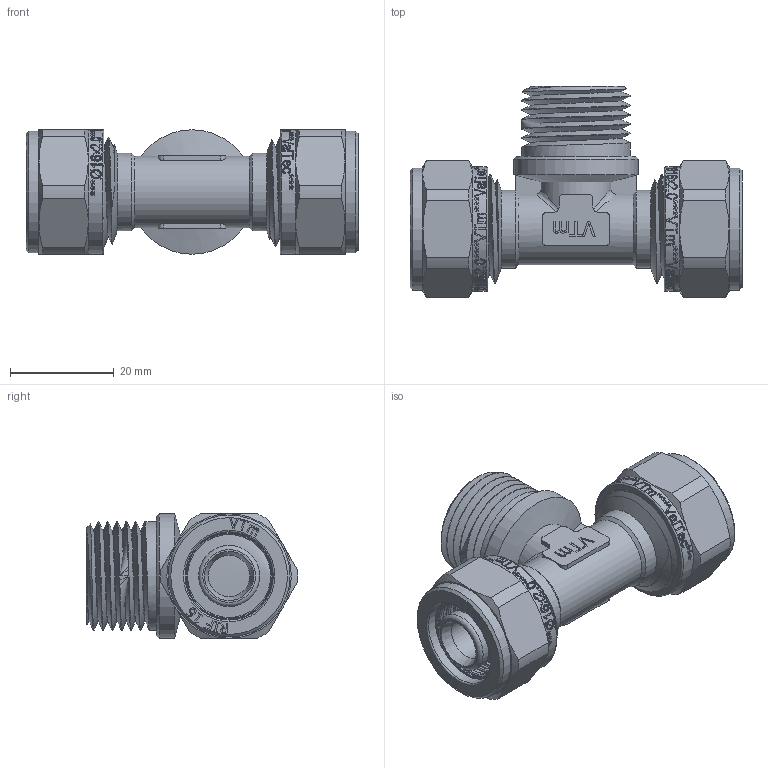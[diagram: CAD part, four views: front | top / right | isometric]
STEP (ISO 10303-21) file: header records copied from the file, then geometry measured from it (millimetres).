
FILE_DESCRIPTION(/* description */ (''),/* implementation_level */ '2;1');
FILE_NAME(/* name */ 'F:\Артём\00000\Работа удаленка\Обжимные фитинги\VTm.333.N.160416.stp',/* time_stamp */ '2020-07-30T09:57:20+03:00',/* author */ ('almis'),/* organization */ (''),/* preprocessor_version */ 'ST-DEVELOPER v18',/* originating_system */ 'Autodesk Inventor 2020',/* authorisation */ '');
FILE_SCHEMA (('AUTOMOTIVE_DESIGN { 1 0 10303 214 3 1 1 }'));
Length unit declared in the file: millimetre
Products named in the file (1): VTm.332.N.160416
Bounding box: 64 x 40.69 x 24 mm (x, y, z)
Volume: 17118.2 mm3; surface area: 15171.5 mm2
Topology: 1 solids, 3 shells, 1433 faces, 4009 edges, 2692 vertices
Faces by surface type: bspline 724, plane 427, cylinder 183, torus 50, cone 49
Full cylindrical faces by diameter (mm): 8 x1, 9.4 x4, 10 x1, 11.75 x8, 15 x2, 16 x9, 16.2 x2, 16.6 x10, 17 x2, 17.4 x12, 18.6 x5, 21 x6, 23.5 x2, 24 x3
Entity records: 62728 total; most frequent: CARTESIAN_POINT 30464, ORIENTED_EDGE 8020, DIRECTION 4475, EDGE_CURVE 4010, VERTEX_POINT 2693, LINE 1725, VECTOR 1725, B_SPLINE_CURVE_WITH_KNOTS 1561
